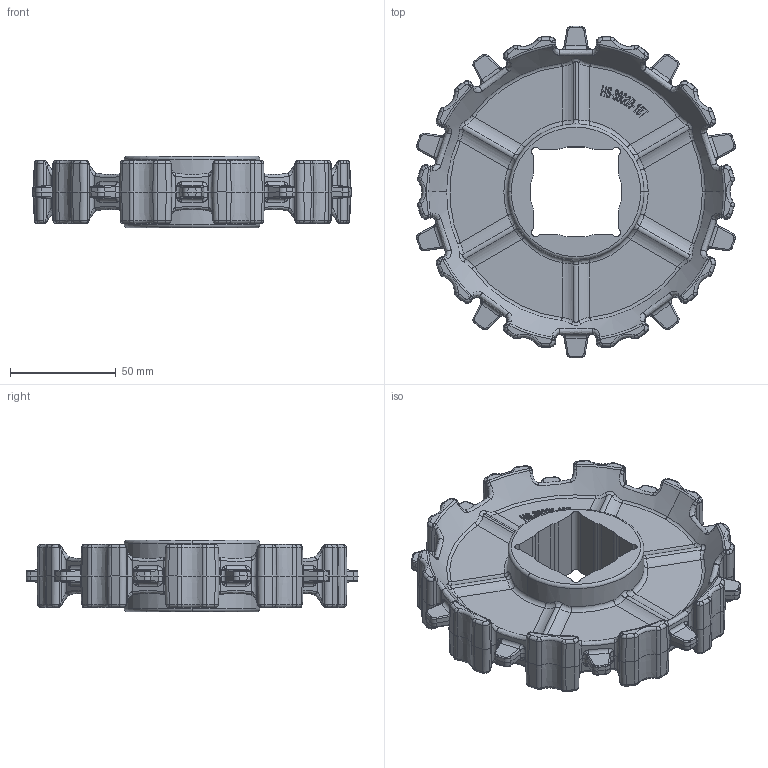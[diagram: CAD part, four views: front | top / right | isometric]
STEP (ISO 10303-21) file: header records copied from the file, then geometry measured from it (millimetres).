
FILE_DESCRIPTION(/* description */ (''),/* implementation_level */ '2;1');
FILE_NAME(/* name */ 'HS-3600B-10T.stp',/* time_stamp */ '2024-12-24T14:59:45+08:00',/* author */ (''),/* organization */ (''),/* preprocessor_version */ 'ST-DEVELOPER v15',/* originating_system */ 'SIEMENS PLM Software NX 8.5',/* authorisation */ '');
FILE_SCHEMA (('AP203_CONFIGURATION_CONTROLLED_3D_DESIGN_OF_MECHANICAL_PARTS_AND_ASSEMBLIES_MIM_LF { 1 0 10303 403 2 1 2}'));
Products named in the file (1): Admi5438F4E0xaye
Bounding box: 150.79 x 157.04 x 33.8 mm (x, y, z)
Volume: 196388.1 mm3; surface area: 58854.2 mm2
Topology: 1 solids, 1 shells, 1408 faces, 3442 edges, 2014 vertices
Faces by surface type: bspline 556, cylinder 382, plane 287, extrusion 91, torus 72, cone 20
Entity records: 77979 total; most frequent: CARTESIAN_POINT 50888, ORIENTED_EDGE 6804, DIRECTION 3500, EDGE_CURVE 3402, VERTEX_POINT 2014, B_SPLINE_CURVE_WITH_KNOTS 1962, EDGE_LOOP 1428, ADVANCED_FACE 1408
